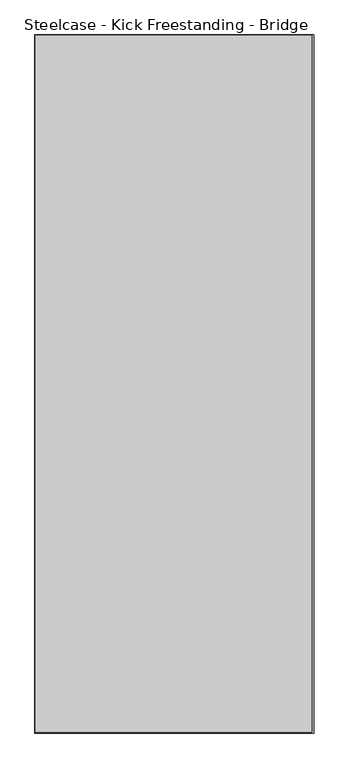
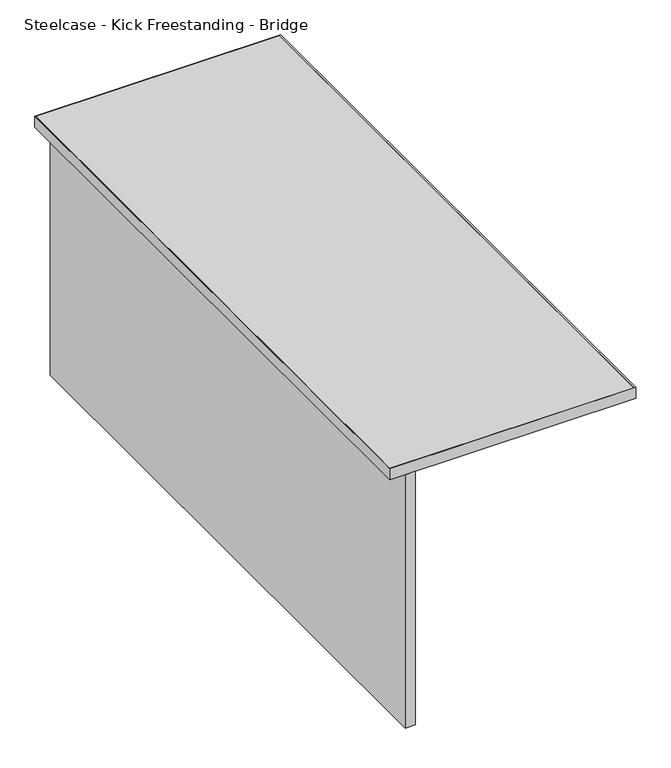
"""IFC4 building model written with IfcOpenShell, lengths in millimetres: furniture geometry, Steelcase - Kick Freestanding - Bridge : 24D x 60W - Full Panel."""

from ifc_helpers import new_model, si_unit, frame, origin, place, context, project, spatial, polyline, outline, extrude, source, transform, mapped, element, save


def steelcase_kick_freestanding_bridge_9aa4bce1(model_context):
    return source(origin(), model_context, "Body", "SweptSolid", [
        extrude(outline(polyline([(2201.9594425, -2070.8145152), (2201.9594425, -546.8145152), (2227.3594425, -546.8145152), (2227.3594425, -2070.8145152), (2201.9594425, -2070.8145152)])), frame((0.0, 0.0, 18.542), z_axis=(0.0, 0.0, 1.0), x_axis=(1.0, 0.0, 0.0)), (0.0, 0.0, 1.0), 663.702),
        extrude(outline(polyline([(2769.2176592, -548.0845152), (2769.2176592, -2069.5445152), (2164.8500425, -2069.5445152), (2164.8500425, -548.0845152), (2769.2176592, -548.0845152)])), frame((0.0, 0.0, 682.244), z_axis=(0.0, 0.0, 1.0), x_axis=(1.0, 0.0, 0.0)), (0.0, 0.0, 1.0), 28.956),
        extrude(outline(polyline([(2773.4594425, -546.8145152), (2773.4594425, -2070.8145152), (2163.8594425, -2070.8145152), (2163.8594425, -546.8145152), (2773.4594425, -546.8145152)]), holes=[polyline([(2769.2176592, -548.0845152), (2164.8500425, -548.0845152), (2164.8500425, -2069.5445152), (2769.2176592, -2069.5445152), (2769.2176592, -548.0845152)])]), frame((0.0, 0.0, 682.244), z_axis=(0.0, 0.0, 1.0), x_axis=(1.0, 0.0, 0.0)), (0.0, 0.0, 1.0), 28.956),
    ])


if __name__ == "__main__":
    model = new_model("IFC4")
    model_context = context("Model", 3, world=origin())
    ifc_project = project(units=[si_unit("LENGTHUNIT", "METRE", prefix="MILLI")], contexts=[model_context])
    site = spatial("IfcSite", under=ifc_project)
    building = spatial("IfcBuilding", under=site)
    placement = place(None, origin())
    steelcase_kick_freestanding_bridge_shape = steelcase_kick_freestanding_bridge_9aa4bce1(model_context)
    element("IfcFurniture", 1, ObjectType="Steelcase - Kick Freestanding - Bridge : 24D x 60W - Full Panel", at=placement, inside=building, context=model_context, shape_type="MappedRepresentation", body=[
        mapped(steelcase_kick_freestanding_bridge_shape, transform((0.0, 0.0, 0.0), x_axis=(1.0, 0.0, 0.0), y_axis=(0.0, 1.0, 0.0), z_axis=(0.0, 0.0, 1.0))),
    ])
    save(model, "model.ifc")
